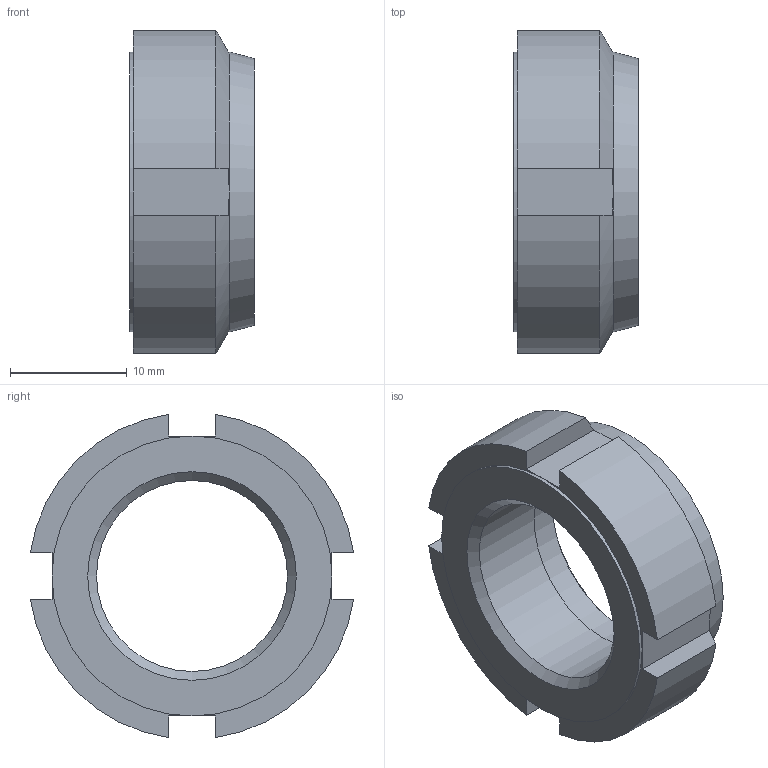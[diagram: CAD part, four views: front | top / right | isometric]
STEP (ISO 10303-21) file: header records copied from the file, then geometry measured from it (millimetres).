
FILE_DESCRIPTION( ( 'STEP AP203' ), '1' );
FILE_NAME( 'C:/Temp/Ganter_Step_05_03_2020/data/3_2/gn1804_1/Slotted locknut self-locking GN 1804.1-M18x1,5.stp', '2020-03-13T05:25:14', ( 'License CC BY-ND 4.0' ), ( 'CADENAS' ), ' ', 'PARTsolutions', ' ' );
FILE_SCHEMA( ( 'CONFIG_CONTROL_DESIGN' ) );
Length unit declared in the file: millimetre
Products named in the file (1): _Slotted locknut self-locking GN 1804.1-M18x1,5
Bounding box: 10.7 x 27.71 x 27.71 mm (x, y, z)
Volume: 3446.1 mm3; surface area: 2207.1 mm2
Topology: 1 solids, 1 shells, 34 faces, 79 edges, 49 vertices
Faces by surface type: plane 20, cylinder 8, cone 6
Full cylindrical faces by diameter (mm): 16.376 x1, 16.9 x1, 19 x1, 24 x1
Entity records: 994 total; most frequent: CARTESIAN_POINT 205, DIRECTION 152, ORIENTED_EDGE 146, EDGE_CURVE 73, AXIS2_PLACEMENT_3D 60, VERTEX_POINT 49, EDGE_LOOP 44, FACE_OUTER_BOUND 38
